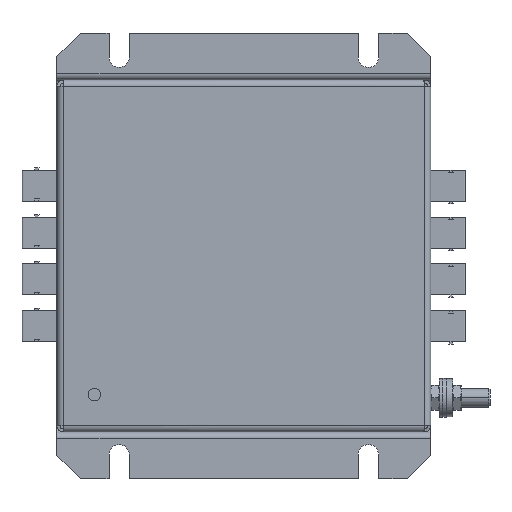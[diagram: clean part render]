
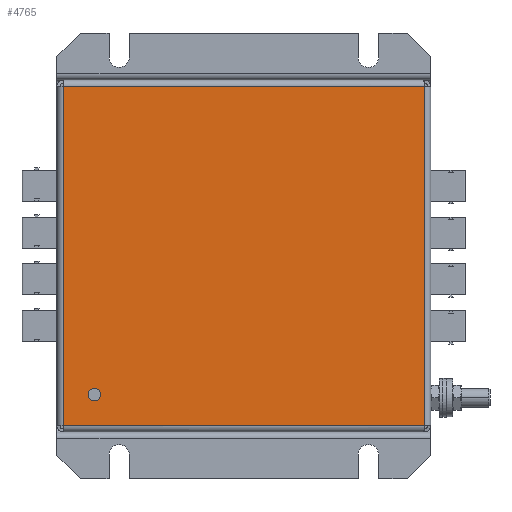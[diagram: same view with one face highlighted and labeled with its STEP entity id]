
A CAD part, front view. The second image highlights one B-rep face of the part: STEP entity #4765.
In plain terms, the highlighted planar face has unit normal (0, -1, 0).
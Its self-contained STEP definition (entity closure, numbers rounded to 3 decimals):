
#894 = VERTEX_POINT ( 'NONE', #6249 ) ;
#1079 = AXIS2_PLACEMENT_3D ( 'NONE', #7499, #12924, #15525 ) ;
#1255 = FACE_OUTER_BOUND ( 'NONE', #3371, .T. ) ;
#1346 = CARTESIAN_POINT ( 'NONE',  ( 2., 0., -28.25 ) ) ;
#2311 = AXIS2_PLACEMENT_3D ( 'NONE', #7216, #13145, #9036 ) ;
#2968 = LINE ( 'NONE', #15290, #12273 ) ;
#3371 = EDGE_LOOP ( 'NONE', ( #16317, #11167, #7498, #5850 ) ) ;
#3693 = EDGE_CURVE ( 'NONE', #13454, #15496, #9008, .T. ) ;
#3920 = LINE ( 'NONE', #15968, #17326 ) ;
#4121 = LINE ( 'NONE', #1346, #15915 ) ;
#4151 = VERTEX_POINT ( 'NONE', #16415 ) ;
#4293 = EDGE_CURVE ( 'NONE', #17552, #894, #10010, .T. ) ;
#4515 = EDGE_CURVE ( 'NONE', #15496, #6778, #2968, .T. ) ;
#4765 = ADVANCED_FACE ( 'NONE', ( #14645, #1255 ), #6443, .F. ) ;
#4874 = EDGE_CURVE ( 'NONE', #6778, #4151, #4121, .T. ) ;
#5112 = EDGE_CURVE ( 'NONE', #894, #17552, #14474, .T. ) ;
#5171 = EDGE_CURVE ( 'NONE', #4151, #13454, #3920, .T. ) ;
#5193 = CARTESIAN_POINT ( 'NONE',  ( 118., 0., -84.75 ) ) ;
#5850 = ORIENTED_EDGE ( 'NONE', *, *, #4874, .T. ) ;
#6249 = CARTESIAN_POINT ( 'NONE',  ( 10., 0., -101. ) ) ;
#6443 = PLANE ( 'NONE',  #15142 ) ;
#6622 = DIRECTION ( 'NONE',  ( 0., 0., 1. ) ) ;
#6627 = DIRECTION ( 'NONE',  ( 0., 1., 0. ) ) ;
#6778 = VERTEX_POINT ( 'NONE', #17463 ) ;
#7216 = CARTESIAN_POINT ( 'NONE',  ( 12., 0., -101. ) ) ;
#7498 = ORIENTED_EDGE ( 'NONE', *, *, #4515, .T. ) ;
#7499 = CARTESIAN_POINT ( 'NONE',  ( 12., 0., -101. ) ) ;
#7680 = ORIENTED_EDGE ( 'NONE', *, *, #5112, .T. ) ;
#7779 = CARTESIAN_POINT ( 'NONE',  ( 60., 0., -56.5 ) ) ;
#8398 = DIRECTION ( 'NONE',  ( 0., 0., -1. ) ) ;
#9008 = LINE ( 'NONE', #5193, #15630 ) ;
#9036 = DIRECTION ( 'NONE',  ( -1., 0., 0. ) ) ;
#9663 = DIRECTION ( 'NONE',  ( -1., 0., 0. ) ) ;
#10010 = CIRCLE ( 'NONE', #2311, 2. ) ;
#10195 = CARTESIAN_POINT ( 'NONE',  ( 118., 0., -111. ) ) ;
#10607 = DIRECTION ( 'NONE',  ( 1., 0., 0. ) ) ;
#11127 = CARTESIAN_POINT ( 'NONE',  ( 14., 0., -101. ) ) ;
#11167 = ORIENTED_EDGE ( 'NONE', *, *, #3693, .T. ) ;
#11341 = EDGE_LOOP ( 'NONE', ( #7680, #11795 ) ) ;
#11795 = ORIENTED_EDGE ( 'NONE', *, *, #4293, .T. ) ;
#12273 = VECTOR ( 'NONE', #9663, 1000. ) ;
#12924 = DIRECTION ( 'NONE',  ( 0., 1., 0. ) ) ;
#13145 = DIRECTION ( 'NONE',  ( 0., 1., 0. ) ) ;
#13304 = DIRECTION ( 'NONE',  ( 1., 0., 0. ) ) ;
#13454 = VERTEX_POINT ( 'NONE', #10195 ) ;
#14474 = CIRCLE ( 'NONE', #1079, 2. ) ;
#14645 = FACE_BOUND ( 'NONE', #11341, .T. ) ;
#15142 = AXIS2_PLACEMENT_3D ( 'NONE', #7779, #6627, #13304 ) ;
#15290 = CARTESIAN_POINT ( 'NONE',  ( 89., 0., -2. ) ) ;
#15496 = VERTEX_POINT ( 'NONE', #16536 ) ;
#15525 = DIRECTION ( 'NONE',  ( -1., 0., 0. ) ) ;
#15630 = VECTOR ( 'NONE', #6622, 1000. ) ;
#15915 = VECTOR ( 'NONE', #8398, 1000. ) ;
#15968 = CARTESIAN_POINT ( 'NONE',  ( 31., 0., -111. ) ) ;
#16317 = ORIENTED_EDGE ( 'NONE', *, *, #5171, .T. ) ;
#16415 = CARTESIAN_POINT ( 'NONE',  ( 2., 0., -111. ) ) ;
#16536 = CARTESIAN_POINT ( 'NONE',  ( 118., 0., -2. ) ) ;
#17326 = VECTOR ( 'NONE', #10607, 1000. ) ;
#17463 = CARTESIAN_POINT ( 'NONE',  ( 2., 0., -2. ) ) ;
#17552 = VERTEX_POINT ( 'NONE', #11127 ) ;
